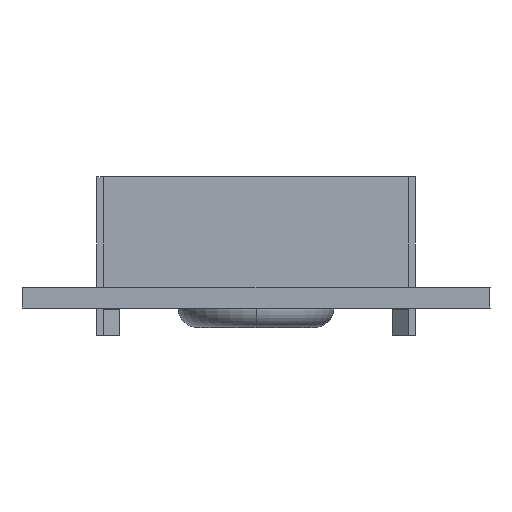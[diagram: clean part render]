
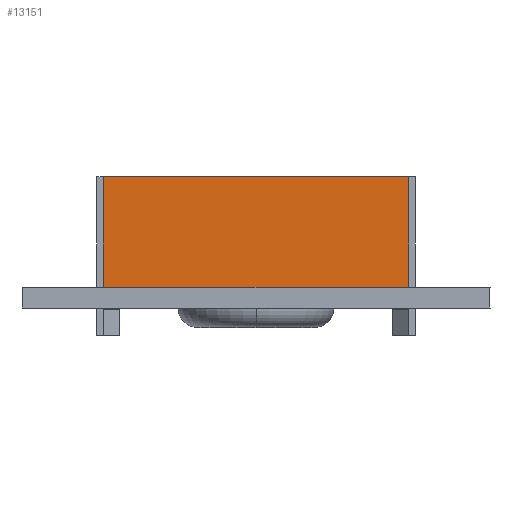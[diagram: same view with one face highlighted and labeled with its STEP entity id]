
A CAD part, left-side view. The second image highlights one B-rep face of the part: STEP entity #13151.
In plain terms, the highlighted planar face has unit normal (-1, 0, 0).
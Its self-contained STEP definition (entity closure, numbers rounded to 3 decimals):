
#204 = PLANE ( 'NONE',  #12460 ) ;
#756 = VERTEX_POINT ( 'NONE', #15656 ) ;
#1490 = VECTOR ( 'NONE', #13407, 1000. ) ;
#2084 = VECTOR ( 'NONE', #12398, 1000. ) ;
#2521 = VERTEX_POINT ( 'NONE', #15040 ) ;
#2649 = FACE_OUTER_BOUND ( 'NONE', #5328, .T. ) ;
#3969 = EDGE_CURVE ( 'NONE', #8003, #756, #8568, .T. ) ;
#4238 = EDGE_CURVE ( 'NONE', #2521, #4986, #15751, .T. ) ;
#4416 = DIRECTION ( 'NONE',  ( 0., 0., -1. ) ) ;
#4944 = CARTESIAN_POINT ( 'NONE',  ( -35.6, -11.75, 10.1 ) ) ;
#4986 = VERTEX_POINT ( 'NONE', #5955 ) ;
#5031 = DIRECTION ( 'NONE',  ( 1., 0., 0. ) ) ;
#5191 = CARTESIAN_POINT ( 'NONE',  ( -35.6, 11.75, 10.1 ) ) ;
#5233 = VECTOR ( 'NONE', #4416, 1000. ) ;
#5328 = EDGE_LOOP ( 'NONE', ( #9059, #8589, #8301, #14775 ) ) ;
#5955 = CARTESIAN_POINT ( 'NONE',  ( -35.6, -11.75, 1.6 ) ) ;
#5991 = CARTESIAN_POINT ( 'NONE',  ( -35.6, 11.75, 10.1 ) ) ;
#6268 = EDGE_CURVE ( 'NONE', #8003, #2521, #11444, .T. ) ;
#6364 = VECTOR ( 'NONE', #14692, 1000. ) ;
#6767 = LINE ( 'NONE', #9734, #6364 ) ;
#8003 = VERTEX_POINT ( 'NONE', #5191 ) ;
#8141 = CARTESIAN_POINT ( 'NONE',  ( -35.6, 11.75, 10.1 ) ) ;
#8301 = ORIENTED_EDGE ( 'NONE', *, *, #6268, .F. ) ;
#8568 = LINE ( 'NONE', #8141, #5233 ) ;
#8589 = ORIENTED_EDGE ( 'NONE', *, *, #4238, .F. ) ;
#9059 = ORIENTED_EDGE ( 'NONE', *, *, #12316, .T. ) ;
#9734 = CARTESIAN_POINT ( 'NONE',  ( -35.6, 11.75, 1.6 ) ) ;
#11444 = LINE ( 'NONE', #5991, #1490 ) ;
#12316 = EDGE_CURVE ( 'NONE', #756, #4986, #6767, .T. ) ;
#12398 = DIRECTION ( 'NONE',  ( 0., 0., -1. ) ) ;
#12460 = AXIS2_PLACEMENT_3D ( 'NONE', #12486, #5031, #13755 ) ;
#12486 = CARTESIAN_POINT ( 'NONE',  ( -35.6, 11.75, 10.1 ) ) ;
#13151 = ADVANCED_FACE ( 'NONE', ( #2649 ), #204, .F. ) ;
#13407 = DIRECTION ( 'NONE',  ( 0., -1., 0. ) ) ;
#13755 = DIRECTION ( 'NONE',  ( 0., 0., -1. ) ) ;
#14692 = DIRECTION ( 'NONE',  ( 0., -1., 0. ) ) ;
#14775 = ORIENTED_EDGE ( 'NONE', *, *, #3969, .T. ) ;
#15040 = CARTESIAN_POINT ( 'NONE',  ( -35.6, -11.75, 10.1 ) ) ;
#15656 = CARTESIAN_POINT ( 'NONE',  ( -35.6, 11.75, 1.6 ) ) ;
#15751 = LINE ( 'NONE', #4944, #2084 ) ;
